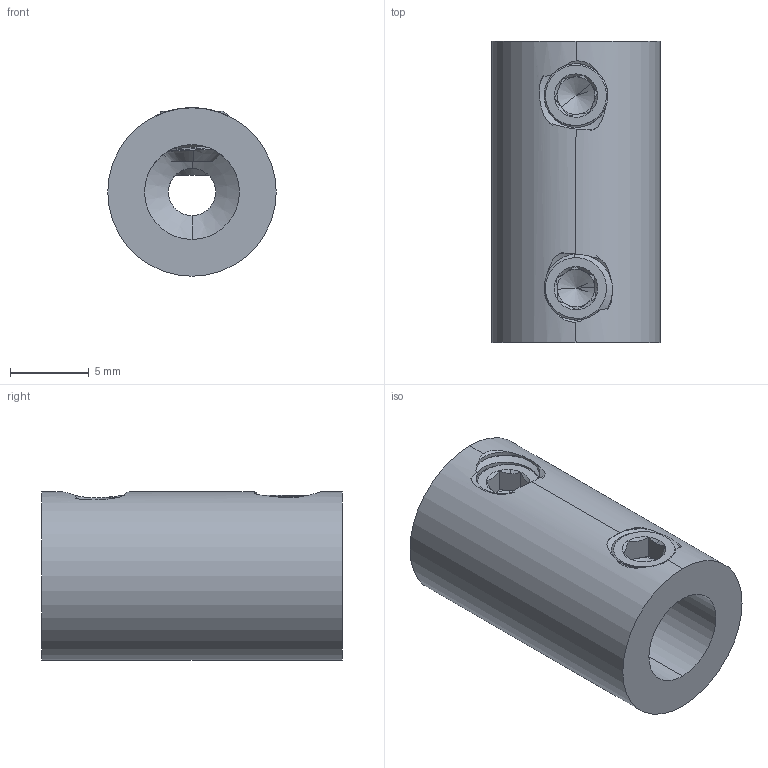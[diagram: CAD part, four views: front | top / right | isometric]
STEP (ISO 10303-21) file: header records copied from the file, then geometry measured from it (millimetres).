
FILE_DESCRIPTION (( 'STEP AP203' ), '1' );
FILE_NAME ('625212 assembly.STEP', '2016-08-26T14:49:35', ( '' ), ( '' ), 'SwSTEP 2.0', 'SolidWorks 2014', '' );
FILE_SCHEMA (( 'CONFIG_CONTROL_DESIGN' ));
Length unit declared in the file: inch
Products named in the file (3): 625212; 632134_91375A436; 625212 assembly
Assembly tree (3 placements, depth 2):
  625212 assembly
    625212
    632134_91375A436  x2
Bounding box: 10.67 x 19.05 x 10.67 mm (x, y, z)
Volume: 1321.4 mm3; surface area: 1354.6 mm2
Topology: 3 solids, 3 shells, 172 faces, 463 edges, 288 vertices
Faces by surface type: cylinder 80, cone 37, plane 30, bspline 25
Entity records: 12639 total; most frequent: CARTESIAN_POINT 9545, ORIENTED_EDGE 742, DIRECTION 403, EDGE_CURVE 371, VERTEX_POINT 239, AXIS2_PLACEMENT_3D 156, EDGE_LOOP 138, ADVANCED_FACE 134
